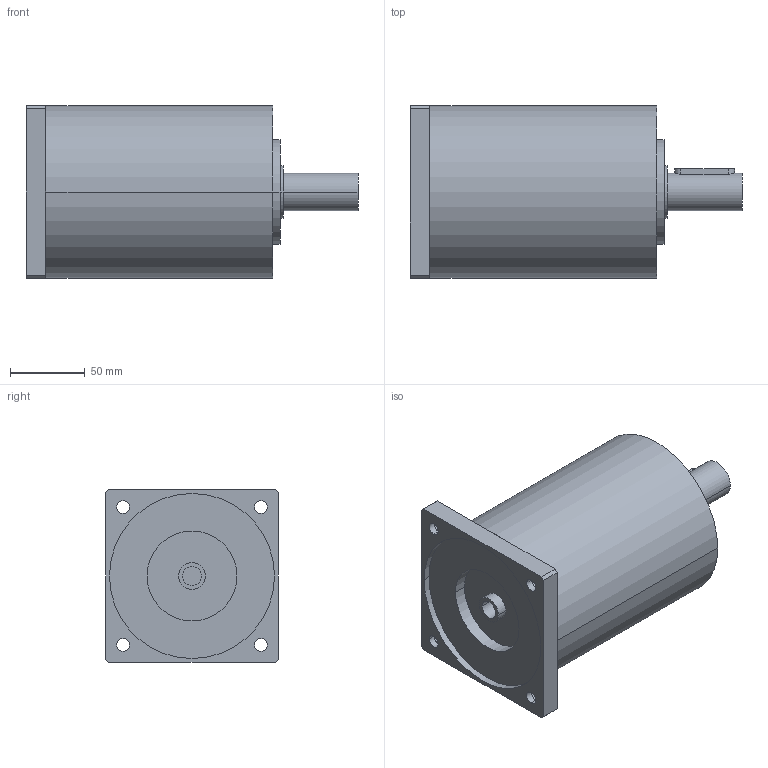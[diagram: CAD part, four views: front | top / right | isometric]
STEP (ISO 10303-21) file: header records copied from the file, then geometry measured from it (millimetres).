
FILE_DESCRIPTION(('CoCreate Modeling STEP Export'),'2;1');
FILE_NAME('GPR125_ig-9-12-16-20-28-35_25_B14_12.7_P07.stp','2014-08-26T14:09:19',(''),(''),'CoCreate Modeling STEP processor for AP214 (Solid Model)','CoCreate Modeling 16.00C 25-Feb-2009 (C) Parametric Technology GmbH','');
FILE_SCHEMA(('AUTOMOTIVE_DESIGN { 1 0 10303 214 1 1 1 1 }'));
Length unit declared in the file: millimetre
Products named in the file (2): GPR125_ig-9-12-16-20-28-35_25_B14_12.7_P07
Assembly tree (1 placements, depth 2):
  GPR125_ig-9-12-16-20-28-35_25_B14_12.7_P07
    GPR125_ig-9-12-16-20-28-35_25_B14_12.7_P07
Bounding box: 221.4 x 115 x 115 mm (x, y, z)
Volume: 1711332.9 mm3; surface area: 101592.4 mm2
Topology: 1 solids, 1 shells, 77 faces, 210 edges, 150 vertices
Faces by surface type: cylinder 48, plane 25, cone 4
Entity records: 2143 total; most frequent: ORIENTED_EDGE 416, CARTESIAN_POINT 397, DIRECTION 288, EDGE_CURVE 208, VERTEX_POINT 150, AXIS2_PLACEMENT_3D 109, EDGE_LOOP 102, FACE_OUTER_BOUND 77
